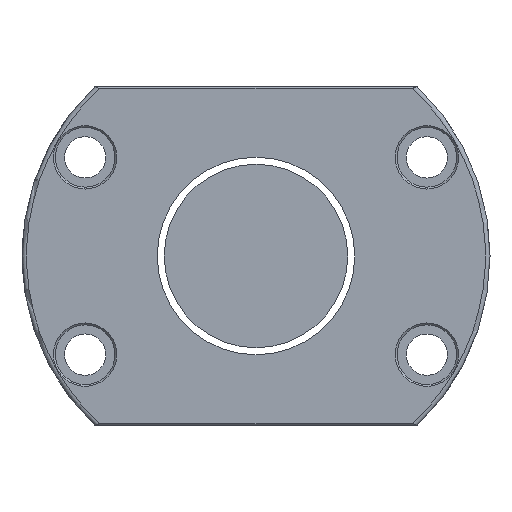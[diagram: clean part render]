
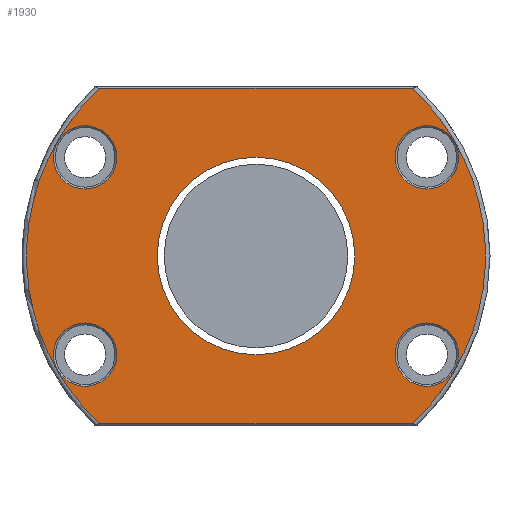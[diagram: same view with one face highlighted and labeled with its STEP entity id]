
A CAD part, left-side view. The second image highlights one B-rep face of the part: STEP entity #1930.
In plain terms, the highlighted planar face has unit normal (-1, 0, 0).
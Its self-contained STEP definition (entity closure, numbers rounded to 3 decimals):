
#48 = DIRECTION ( 'NONE',  ( 0., 0., 1. ) ) ;
#100 = FACE_BOUND ( 'NONE', #2426, .T. ) ;
#124 = CARTESIAN_POINT ( 'NONE',  ( -180., 68.13, -73.2 ) ) ;
#128 = DIRECTION ( 'NONE',  ( 0., 0., 1. ) ) ;
#155 = ORIENTED_EDGE ( 'NONE', *, *, #1736, .T. ) ;
#185 = DIRECTION ( 'NONE',  ( 0., 0., 1. ) ) ;
#217 = VERTEX_POINT ( 'NONE', #3187 ) ;
#234 = CARTESIAN_POINT ( 'NONE',  ( -180., 74.478, 43. ) ) ;
#342 = FACE_BOUND ( 'NONE', #3145, .T. ) ;
#356 = CARTESIAN_POINT ( 'NONE',  ( -180., 0., 0. ) ) ;
#391 = ORIENTED_EDGE ( 'NONE', *, *, #1283, .T. ) ;
#402 = AXIS2_PLACEMENT_3D ( 'NONE', #234, #1326, #1268 ) ;
#415 = ORIENTED_EDGE ( 'NONE', *, *, #2767, .T. ) ;
#449 = EDGE_LOOP ( 'NONE', ( #2980, #391, #415, #2417 ) ) ;
#551 = CARTESIAN_POINT ( 'NONE',  ( -180., 74.478, 56.8 ) ) ;
#578 = CIRCLE ( 'NONE', #1483, 100. ) ;
#626 = AXIS2_PLACEMENT_3D ( 'NONE', #3179, #1275, #3137 ) ;
#642 = VECTOR ( 'NONE', #1113, 1000. ) ;
#756 = CIRCLE ( 'NONE', #2536, 43.05 ) ;
#790 = VERTEX_POINT ( 'NONE', #124 ) ;
#852 = CARTESIAN_POINT ( 'NONE',  ( -180., -74.478, 43. ) ) ;
#886 = VERTEX_POINT ( 'NONE', #3073 ) ;
#915 = DIRECTION ( 'NONE',  ( 0., -1., 0. ) ) ;
#932 = CARTESIAN_POINT ( 'NONE',  ( -180., -70.2, -73.2 ) ) ;
#946 = DIRECTION ( 'NONE',  ( 0., 0., 1. ) ) ;
#962 = DIRECTION ( 'NONE',  ( 1., 0., 0. ) ) ;
#965 = CIRCLE ( 'NONE', #1149, 13.8 ) ;
#1038 = EDGE_LOOP ( 'NONE', ( #1965 ) ) ;
#1090 = CARTESIAN_POINT ( 'NONE',  ( -180., -74.478, -29.2 ) ) ;
#1113 = DIRECTION ( 'NONE',  ( 0., 1., 0. ) ) ;
#1127 = PLANE ( 'NONE',  #626 ) ;
#1149 = AXIS2_PLACEMENT_3D ( 'NONE', #3420, #962, #2054 ) ;
#1170 = CARTESIAN_POINT ( 'NONE',  ( -180., -74.478, 56.8 ) ) ;
#1254 = AXIS2_PLACEMENT_3D ( 'NONE', #852, #2774, #48 ) ;
#1268 = DIRECTION ( 'NONE',  ( 0., 0., 1. ) ) ;
#1275 = DIRECTION ( 'NONE',  ( -1., 0., 0. ) ) ;
#1283 = EDGE_CURVE ( 'NONE', #3439, #217, #578, .T. ) ;
#1299 = EDGE_LOOP ( 'NONE', ( #2859 ) ) ;
#1306 = EDGE_CURVE ( 'NONE', #3221, #3221, #3486, .T. ) ;
#1314 = CIRCLE ( 'NONE', #1254, 13.8 ) ;
#1320 = LINE ( 'NONE', #1611, #642 ) ;
#1321 = EDGE_CURVE ( 'NONE', #790, #3439, #3131, .T. ) ;
#1326 = DIRECTION ( 'NONE',  ( 1., 0., 0. ) ) ;
#1353 = CARTESIAN_POINT ( 'NONE',  ( -180., 74.478, -29.2 ) ) ;
#1376 = VECTOR ( 'NONE', #915, 1000. ) ;
#1412 = CARTESIAN_POINT ( 'NONE',  ( -180., 68.13, 73.2 ) ) ;
#1423 = FACE_BOUND ( 'NONE', #1038, .T. ) ;
#1437 = EDGE_CURVE ( 'NONE', #3007, #3007, #965, .T. ) ;
#1483 = AXIS2_PLACEMENT_3D ( 'NONE', #2550, #2345, #128 ) ;
#1611 = CARTESIAN_POINT ( 'NONE',  ( -180., 70.2, 73.2 ) ) ;
#1715 = DIRECTION ( 'NONE',  ( 1., 0., 0. ) ) ;
#1736 = EDGE_CURVE ( 'NONE', #1908, #1908, #2052, .T. ) ;
#1908 = VERTEX_POINT ( 'NONE', #551 ) ;
#1930 = ADVANCED_FACE ( 'NONE', ( #2792, #342, #1423, #2249, #100, #2282 ), #1127, .T. ) ;
#1960 = AXIS2_PLACEMENT_3D ( 'NONE', #2044, #2352, #185 ) ;
#1965 = ORIENTED_EDGE ( 'NONE', *, *, #2097, .T. ) ;
#2044 = CARTESIAN_POINT ( 'NONE',  ( -180., 0., 0. ) ) ;
#2049 = AXIS2_PLACEMENT_3D ( 'NONE', #2583, #2882, #946 ) ;
#2052 = CIRCLE ( 'NONE', #402, 13.8 ) ;
#2054 = DIRECTION ( 'NONE',  ( 0., 0., 1. ) ) ;
#2097 = EDGE_CURVE ( 'NONE', #2215, #2215, #1314, .T. ) ;
#2215 = VERTEX_POINT ( 'NONE', #1170 ) ;
#2249 = FACE_BOUND ( 'NONE', #2285, .T. ) ;
#2282 = FACE_BOUND ( 'NONE', #1299, .T. ) ;
#2285 = EDGE_LOOP ( 'NONE', ( #155 ) ) ;
#2345 = DIRECTION ( 'NONE',  ( -1., 0., 0. ) ) ;
#2352 = DIRECTION ( 'NONE',  ( -1., 0., 0. ) ) ;
#2417 = ORIENTED_EDGE ( 'NONE', *, *, #3370, .T. ) ;
#2426 = EDGE_LOOP ( 'NONE', ( #2618 ) ) ;
#2536 = AXIS2_PLACEMENT_3D ( 'NONE', #356, #1715, #3077 ) ;
#2550 = CARTESIAN_POINT ( 'NONE',  ( -180., 0., 0. ) ) ;
#2583 = CARTESIAN_POINT ( 'NONE',  ( -180., -74.478, -43. ) ) ;
#2618 = ORIENTED_EDGE ( 'NONE', *, *, #1437, .T. ) ;
#2714 = ORIENTED_EDGE ( 'NONE', *, *, #1306, .T. ) ;
#2767 = EDGE_CURVE ( 'NONE', #217, #3078, #1320, .T. ) ;
#2770 = CIRCLE ( 'NONE', #1960, 100. ) ;
#2774 = DIRECTION ( 'NONE',  ( 1., 0., 0. ) ) ;
#2792 = FACE_OUTER_BOUND ( 'NONE', #449, .T. ) ;
#2859 = ORIENTED_EDGE ( 'NONE', *, *, #3084, .T. ) ;
#2882 = DIRECTION ( 'NONE',  ( 1., 0., 0. ) ) ;
#2949 = CARTESIAN_POINT ( 'NONE',  ( -180., -68.13, -73.2 ) ) ;
#2980 = ORIENTED_EDGE ( 'NONE', *, *, #1321, .T. ) ;
#3007 = VERTEX_POINT ( 'NONE', #1353 ) ;
#3073 = CARTESIAN_POINT ( 'NONE',  ( -180., 0., -43.05 ) ) ;
#3077 = DIRECTION ( 'NONE',  ( 0., 0., -1. ) ) ;
#3078 = VERTEX_POINT ( 'NONE', #1412 ) ;
#3084 = EDGE_CURVE ( 'NONE', #886, #886, #756, .T. ) ;
#3131 = LINE ( 'NONE', #932, #1376 ) ;
#3137 = DIRECTION ( 'NONE',  ( 0., 0., 1. ) ) ;
#3145 = EDGE_LOOP ( 'NONE', ( #2714 ) ) ;
#3179 = CARTESIAN_POINT ( 'NONE',  ( -180., 102., 0. ) ) ;
#3187 = CARTESIAN_POINT ( 'NONE',  ( -180., -68.13, 73.2 ) ) ;
#3221 = VERTEX_POINT ( 'NONE', #1090 ) ;
#3370 = EDGE_CURVE ( 'NONE', #3078, #790, #2770, .T. ) ;
#3420 = CARTESIAN_POINT ( 'NONE',  ( -180., 74.478, -43. ) ) ;
#3439 = VERTEX_POINT ( 'NONE', #2949 ) ;
#3486 = CIRCLE ( 'NONE', #2049, 13.8 ) ;
